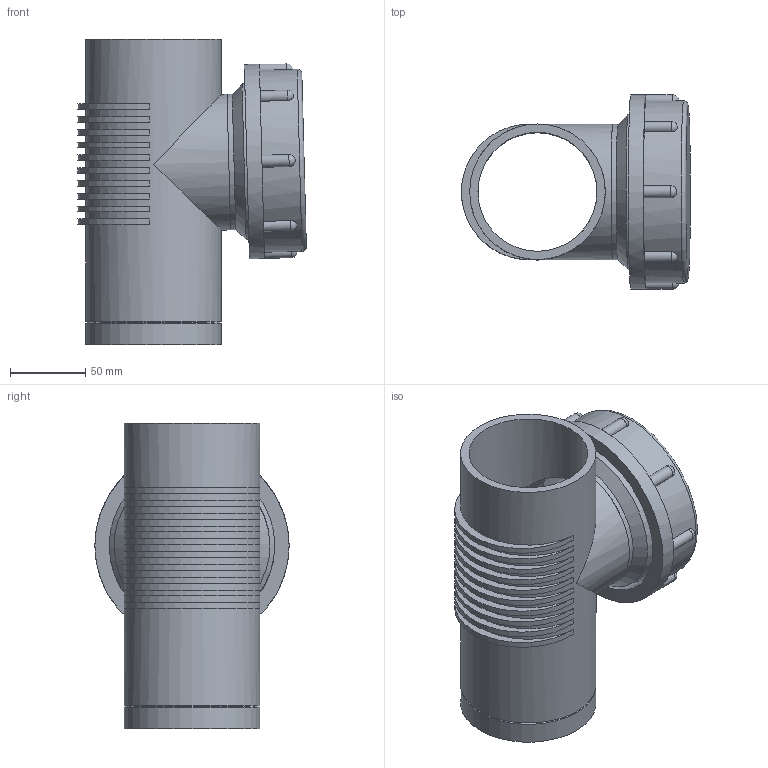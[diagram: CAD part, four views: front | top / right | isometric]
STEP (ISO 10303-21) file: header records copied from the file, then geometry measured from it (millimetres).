
FILE_DESCRIPTION(/* description */ (''),/* implementation_level */ '2;1');
FILE_NAME(/* name */ 'Z:\Geberit\Export\NewStep\308333.stp',/* time_stamp */ '2014-04-01T20:06:02+02:00',/* author */ ('ML'),/* organization */ (''),/* preprocessor_version */ 'ST-DEVELOPER v15.2',/* originating_system */ 'Autodesk Inventor 2014',/* authorisation */ '');
FILE_SCHEMA (('AUTOMOTIVE_DESIGN { 1 0 10303 214 3 1 1 }'));
Length unit declared in the file: millimetre
Products named in the file (4): 863111; 853717; 853893; 308333
Bounding box: 151.82 x 129 x 203 mm (x, y, z)
Volume: 555633.3 mm3; surface area: 204167 mm2
Topology: 3 solids, 3 shells, 83 faces, 227 edges, 142 vertices
Faces by surface type: plane 35, cylinder 32, sphere 8, cone 7, torus 1
Full cylindrical faces by diameter (mm): 79 x2, 83 x1, 90 x4, 91.2 x1, 103.4 x2, 110 x2, 121 x1, 129 x1
Entity records: 2545 total; most frequent: CARTESIAN_POINT 546, DIRECTION 436, ORIENTED_EDGE 324, AXIS2_PLACEMENT_3D 200, EDGE_CURVE 162, EDGE_LOOP 122, VERTEX_POINT 118, CIRCLE 106
